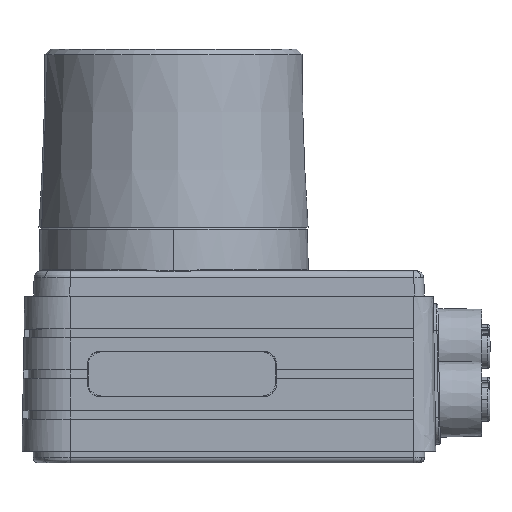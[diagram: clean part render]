
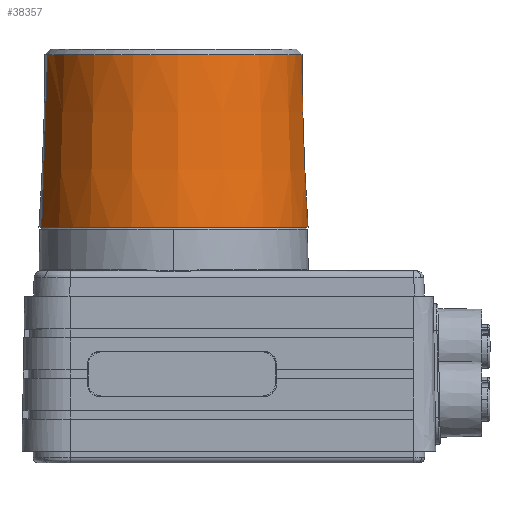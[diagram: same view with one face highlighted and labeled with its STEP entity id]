
A CAD part, left-side view. The second image highlights one B-rep face of the part: STEP entity #38357.
In plain terms, the highlighted conical face has half-angle 2 degrees and reference radius 24.4 mm.
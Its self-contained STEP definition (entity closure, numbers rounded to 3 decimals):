
#27202 = CARTESIAN_POINT ( 'NONE',  ( 0., 10.045, 71.901 ) ) ;
#27206 = DIRECTION ( 'NONE',  ( 0., 0., -1. ) ) ;
#27208 = DIRECTION ( 'NONE',  ( 0.204, -0.979, 0. ) ) ;
#27276 = LINE ( 'NONE', #27278, #87522 ) ;
#27278 = CARTESIAN_POINT ( 'NONE',  ( 4.989, -13.84, 40.6 ) ) ;
#27309 = LINE ( 'NONE', #27314, #87516 ) ;
#27314 = CARTESIAN_POINT ( 'NONE',  ( -4.989, 33.929, 40.6 ) ) ;
#27318 = DIRECTION ( 'NONE',  ( -0.007, 0.034, -0.999 ) ) ;
#27332 = CARTESIAN_POINT ( 'NONE',  ( 0., 10.045, 40.6 ) ) ;
#27334 = DIRECTION ( 'NONE',  ( 0., 0., -1. ) ) ;
#27337 = DIRECTION ( 'NONE',  ( 0.204, -0.979, 0. ) ) ;
#27343 = DIRECTION ( 'NONE',  ( 0.007, -0.034, -0.999 ) ) ;
#38357 = ADVANCED_FACE ( 'NONE', ( #44718 ), #45417, .T. ) ;
#44698 = DIRECTION ( 'NONE',  ( 0., 0., -1. ) ) ;
#44707 = DIRECTION ( 'NONE',  ( 0.204, -0.979, 0. ) ) ;
#44716 = CARTESIAN_POINT ( 'NONE',  ( 0., 10.045, 40.6 ) ) ;
#44718 = FACE_OUTER_BOUND ( 'NONE', #157176, .T. ) ;
#45300 = AXIS2_PLACEMENT_3D ( 'NONE', #44716, #44698, #44707 ) ;
#45417 = CONICAL_SURFACE ( 'NONE', #45300, 24.4, 0.035 ) ;
#87460 = CIRCLE ( 'NONE', #87482, 23.307 ) ;
#87482 = AXIS2_PLACEMENT_3D ( 'NONE', #27202, #27206, #27208 ) ;
#87516 = VECTOR ( 'NONE', #27318, 1000. ) ;
#87519 = CIRCLE ( 'NONE', #87524, 24.4 ) ;
#87522 = VECTOR ( 'NONE', #27343, 1000. ) ;
#87524 = AXIS2_PLACEMENT_3D ( 'NONE', #27332, #27334, #27337 ) ;
#92744 = ORIENTED_EDGE ( 'NONE', *, *, #148289, .T. ) ;
#92746 = ORIENTED_EDGE ( 'NONE', *, *, #148306, .T. ) ;
#92749 = ORIENTED_EDGE ( 'NONE', *, *, #148308, .F. ) ;
#92752 = ORIENTED_EDGE ( 'NONE', *, *, #148309, .F. ) ;
#148289 = EDGE_CURVE ( 'NONE', #168954, #168870, #87460, .T. ) ;
#148306 = EDGE_CURVE ( 'NONE', #168870, #168964, #27309, .T. ) ;
#148308 = EDGE_CURVE ( 'NONE', #170323, #168964, #87519, .T. ) ;
#148309 = EDGE_CURVE ( 'NONE', #168954, #170323, #27276, .T. ) ;
#157176 = EDGE_LOOP ( 'NONE', ( #92744, #92746, #92749, #92752 ) ) ;
#168870 = VERTEX_POINT ( 'NONE', #182772 ) ;
#168954 = VERTEX_POINT ( 'NONE', #183009 ) ;
#168964 = VERTEX_POINT ( 'NONE', #183040 ) ;
#170323 = VERTEX_POINT ( 'NONE', #188067 ) ;
#182772 = CARTESIAN_POINT ( 'NONE',  ( -4.765, 32.859, 71.901 ) ) ;
#183009 = CARTESIAN_POINT ( 'NONE',  ( 4.765, -12.77, 71.901 ) ) ;
#183040 = CARTESIAN_POINT ( 'NONE',  ( -4.989, 33.929, 40.6 ) ) ;
#188067 = CARTESIAN_POINT ( 'NONE',  ( 4.989, -13.84, 40.6 ) ) ;
